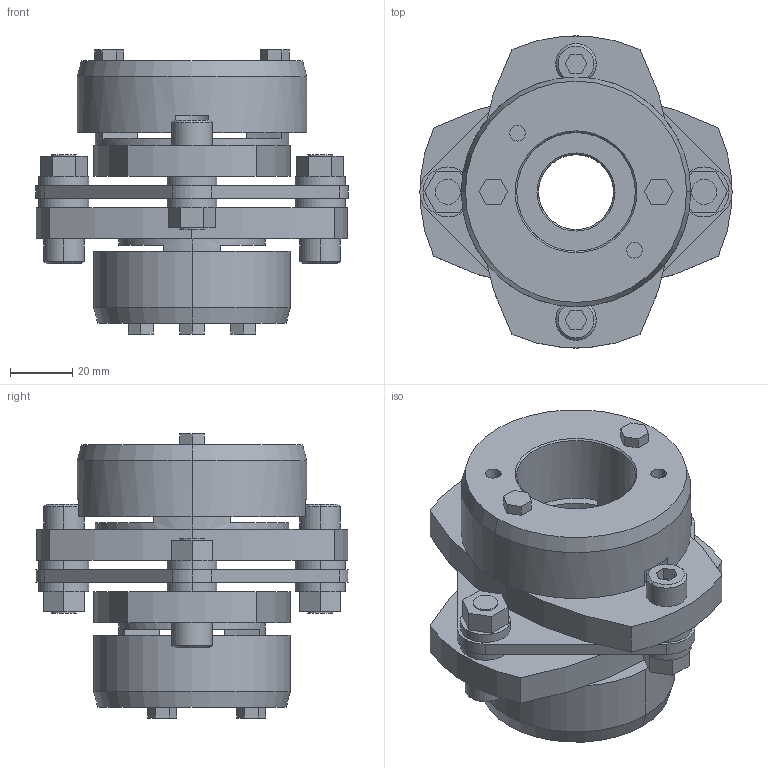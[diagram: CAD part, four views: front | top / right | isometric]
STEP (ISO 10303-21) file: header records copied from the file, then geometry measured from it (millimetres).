
FILE_DESCRIPTION((''),'2;1');
FILE_NAME('LCS-100T7-24×38.stp','2015-11-02T07:43:09',(''),(''),'AutoCAD STEP 2000i','AutoCAD 2000i',', , ');
FILE_SCHEMA(('CONFIG_CONTROL_DESIGN'));
Length unit declared in the file: millimetre
Products named in the file (10): LCS-100T7-25×38; 忣兜1; LC100T7-T038; LC100T7-T035; LC100T7-T030; LC100T7-T025-1; LC100T7-T025; LC100T7-T022-1; LC100T7-T022; LCS100-ITA
Assembly tree (9 placements, depth 2):
  LCS-100T7-25×38
    忣兜1
    LC100T7-T038
    LC100T7-T035
    LC100T7-T030
    LC100T7-T025-1
    LC100T7-T025
    LC100T7-T022-1
    LC100T7-T022
    LCS100-ITA
Bounding box: 100 x 99.93 x 91 mm (x, y, z)
Volume: 260470.4 mm3; surface area: 64367.1 mm2
Topology: 1 solids, 1 shells, 229 faces, 562 edges, 368 vertices
Faces by surface type: plane 127, cylinder 82, cone 20
Entity records: 7037 total; most frequent: DIRECTION 1244, CARTESIAN_POINT 1169, ORIENTED_EDGE 1124, EDGE_CURVE 562, AXIS2_PLACEMENT_3D 443, VERTEX_POINT 368, VECTOR 358, LINE 358
